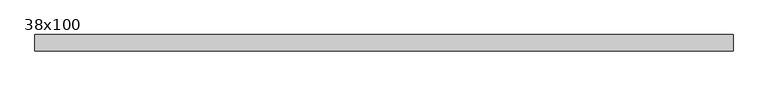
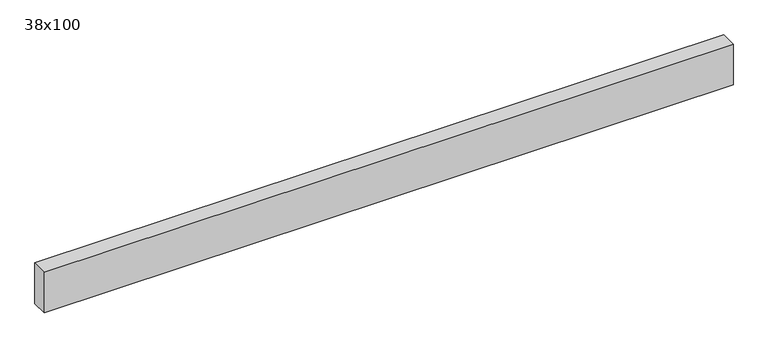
"""IFC4 building model written with IfcOpenShell, lengths in millimetres: beam geometry, Poutre - Bois de construction de dimensions courantes : 38x100."""

from ifc_helpers import new_model, si_unit, frame, origin, place, context, project, spatial, polyline, outline, extrude, source, transform, mapped, element, save


def beam_38x100_572ee268(model_context):
    return source(origin(), model_context, "Body", "SweptSolid", [
        extrude(outline(polyline([(787.5, 19.05), (787.5, -19.05), (-816.5, -19.05), (-816.5, 19.05), (787.5, 19.05)])), frame((0.0, 0.0, -50.0), z_axis=(0.0, 0.0, 1.0), x_axis=(1.0, 0.0, 0.0)), (0.0, 0.0, 1.0), 100.0),
    ])


if __name__ == "__main__":
    model = new_model("IFC4")
    model_context = context("Model", 3, world=origin())
    ifc_project = project(units=[si_unit("LENGTHUNIT", "METRE", prefix="MILLI")], contexts=[model_context])
    site = spatial("IfcSite", under=ifc_project)
    building = spatial("IfcBuilding", under=site)
    placement = place(None, origin())
    beam_38x100_shape = beam_38x100_572ee268(model_context)
    element("IfcBeam", 1, ObjectType="Poutre - Bois de construction de dimensions courantes : 38x100", at=placement, inside=building, context=model_context, shape_type="MappedRepresentation", body=[
        mapped(beam_38x100_shape, transform((0.0, 0.0, 0.0), x_axis=(1.0, 0.0, 0.0), y_axis=(0.0, 1.0, 0.0), z_axis=(0.0, 0.0, 1.0))),
    ])
    save(model, "model.ifc")
